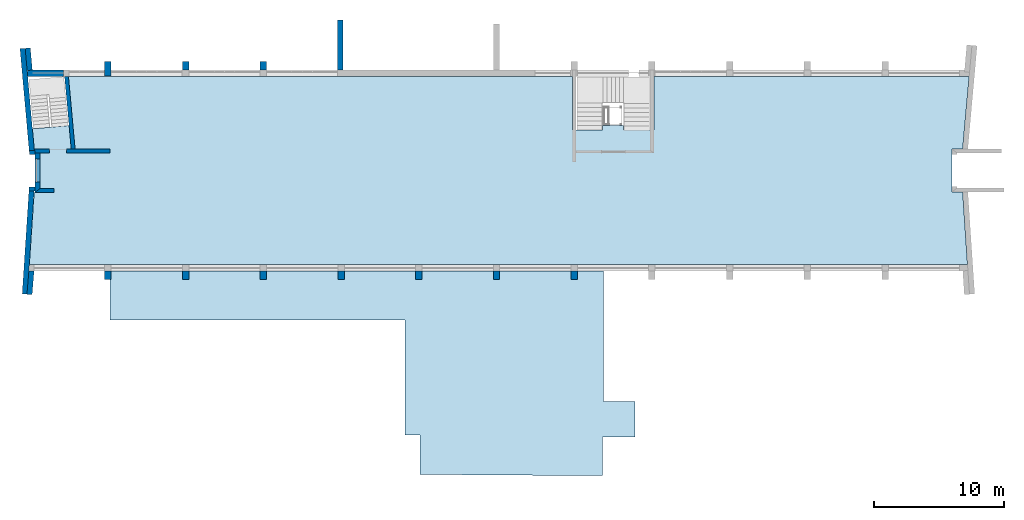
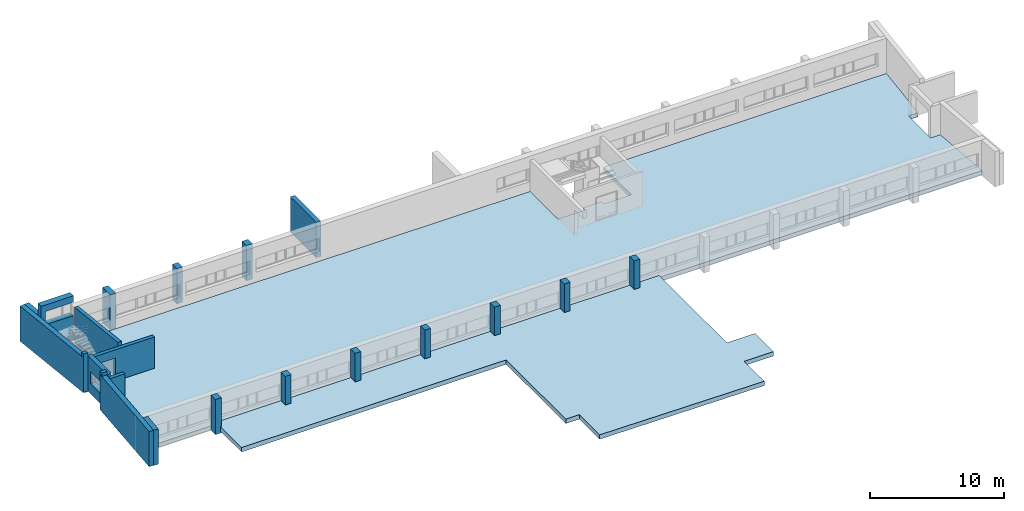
# One storey, part 1 of 10: 22 walls, 2 slabs, 4 openings.
"""IFC2X3 building model written with IfcOpenShell, lengths in millimetres."""

from ifc_helpers import new_model, entity, si_unit, converted_unit, money_unit, direction, frame, origin_with_axes, place, context, subcontext, project, spatial, polyline, outline, extrude, material, layer, layer_set, layer_usage, type_object, element, save


model = new_model("IFC2X3")

# Units and contexts
model_context = context("Model", 3, precision=1e-05, world=origin_with_axes(), true_north=direction((0.0, 1.0)))
body_context = subcontext(model_context, "Body", "Model", "MODEL_VIEW")
ifc_project = project(units=[si_unit("LENGTHUNIT", "METRE", prefix="MILLI"), si_unit("AREAUNIT", "SQUARE_METRE"), si_unit("VOLUMEUNIT", "CUBIC_METRE"), converted_unit("PLANEANGLEUNIT", "DEGREE", entity("IfcPlaneAngleMeasure", 0.0174532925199), si_unit("PLANEANGLEUNIT", "RADIAN"), dimensions=[0, 0, 0, 0, 0, 0, 0]), si_unit("SOLIDANGLEUNIT", "STERADIAN"), money_unit("USD"), converted_unit("TIMEUNIT", "Year", entity("IfcTimeMeasure", 31556926.0), si_unit("TIMEUNIT", "SECOND"), dimensions=[0, 0, 0, 0, 0, 0, 0]), si_unit("MASSUNIT", "GRAM"), si_unit("THERMODYNAMICTEMPERATUREUNIT", "DEGREE_CELSIUS"), si_unit("LUMINOUSINTENSITYUNIT", "LUMEN")], contexts=[model_context])

# Site, building, storey
site_placement = place(None, origin_with_axes())
site = spatial("IfcSite", under=ifc_project, at=site_placement, Name="Site", CompositionType="ELEMENT")
building_placement = place(site_placement, origin_with_axes())
building = spatial("IfcBuilding", under=site, at=building_placement, Name="Building", CompositionType="ELEMENT")
storey_placement = place(building_placement, origin_with_axes())
storey = spatial("IfcBuildingStorey", under=building, at=storey_placement, Name="2KORRUS", CompositionType="ELEMENT", Elevation=0.0)

# Slabs
ifc_material_1 = material(Name="Plaat")
ifc_layer_1 = layer(ifc_material_1, 10.0, ventilated="UNKNOWN")
ifc_material_2 = material(Name="Betoonvalu")
ifc_layer_2 = layer(ifc_material_2, 15.0, ventilated="UNKNOWN")
ifc_material_3 = material(Name="Vahtpolüstüreen")
ifc_layer_3 = layer(ifc_material_3, 30.0, ventilated="UNKNOWN")
ifc_material_4 = material(Name="Reinforced Concrete - Structural (1)")
ifc_layer_4 = layer(ifc_material_4, 265.0, ventilated="UNKNOWN")
ifc_material_5 = material(Name="Kile")
ifc_layer_5 = layer(ifc_material_5, 45.0, ventilated="UNKNOWN")
ifc_layer_set_1 = layer_set([ifc_layer_1, ifc_layer_2, ifc_layer_3, ifc_layer_4, ifc_layer_5], Name="Olemasolev põrand, vahelagi, uus viimistlus")
ifc_layer_usage_1 = layer_usage(ifc_layer_set_1, "AXIS3", "NEGATIVE", 365.0)
slab_type_1 = type_object("IfcSlabType", Name="Olemasolev põrand, vahelagi, uus viimistlus 365", PredefinedType="NOTDEFINED")
slab_1_placement = place(storey_placement, frame((-54198.1100595, -19639.2398994, 0.0), z_axis=(0.0, 0.0, 1.0), x_axis=(1.0, 0.0, 0.0)))
element("IfcSlab", 1, at=slab_1_placement, inside=storey, type_object=slab_type_1, material=ifc_layer_usage_1, Name="P3", ObjectType="P3", PredefinedType="FLOOR", context=body_context, shape_type="SweptSolid", body=[
    extrude(outline(polyline([(0.0, 0.0), (72415.6267124, 0.0), (72043.2266842, 5600.0), (71213.2900292, 5600.0), (71213.2900292, 8899.63579061), (72039.7151706, 8899.63579061), (72543.4907953, 14499.6357906), (48207.8133562, 14499.6357906), (48207.8133562, 10358.2776046), (45857.8133562, 10358.2776046), (45857.8133562, 10708.5963725), (44257.8133562, 10708.5963725), (44257.8133562, 10358.2776046), (41907.8133562, 10358.2776046), (41907.8133562, 14499.6357906), (2717.49602874, 14499.6357906), (3063.03852867, 10720.2049798), (310.625144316, 10473.0044796), (234.920381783, 10466.9019649), (375.911541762, 8899.63579061), (805.883228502, 8899.63579061), (805.883228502, 5551.90233206), (369.201533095, 5551.90233206), (0.0, 0.0)])), frame((0.0, 0.0, -365.0), z_axis=(0.0, 0.0, 1.0), x_axis=(1.0, 0.0, 0.0)), (0.0, 0.0, 1.0), 365.0),
])
ifc_material_6 = material(Name="Betoon")
ifc_layer_6 = layer(ifc_material_6, 400.0, ventilated="UNKNOWN")
ifc_layer_set_2 = layer_set([ifc_layer_6], Name="Betoon 400")
ifc_layer_usage_2 = layer_usage(ifc_layer_set_2, "AXIS3", "NEGATIVE", 400.0)
slab_type_2 = type_object("IfcSlabType", Name="Betoon 400", PredefinedType="FLOOR")
slab_2_placement = place(storey_placement, frame((-47970.2967033, -20139.2398994, 600.0), z_axis=(0.0, 0.0, 1.0), x_axis=(1.0, 0.0, 0.0)))
element("IfcSlab", 2, at=slab_2_placement, inside=storey, type_object=slab_type_2, material=ifc_layer_usage_2, Name="SLA - 007", PredefinedType="FLOOR", context=body_context, shape_type="SweptSolid", body=[
    extrude(outline(polyline([(0.0, 0.0), (0.0, -3806.36420942), (22759.9427442, -3806.36420942), (22759.9427442, -12686.8283554), (23929.9408823, -12686.8283554), (23929.9408823, -15712.9465872), (38021.4035982, -15812.9465872), (38021.4035982, -12823.0737987), (40527.6477031, -12823.0737987), (40527.6477031, -10095.9838529), (38108.8955906, -10095.9838529), (38108.8955906, 0.0), (0.0, 0.0)])), frame((0.0, 0.0, -400.0), z_axis=(0.0, 0.0, 1.0), x_axis=(1.0, 0.0, 0.0)), (0.0, 0.0, 1.0), 400.0),
])

# Walls
ifc_material_7 = material(Name="Olemasolevad seinad tellis, uus viimistlus")
ifc_layer_7 = layer(ifc_material_7, 400.0, ventilated="UNKNOWN")
ifc_layer_set_3 = layer_set([ifc_layer_7], Name="Olemasolevad seinad tellis, uus viimistlus 400")
ifc_layer_usage_3 = layer_usage(ifc_layer_set_3, "AXIS2", "POSITIVE", -400.0)
wall_type_1 = type_object("IfcWallType", Name="Olemasolevad seinad tellis, uus viimistlus 400", PredefinedType="NOTDEFINED")
wall_1_placement = place(storey_placement, frame((-54187.7234453, -11140.7868098, 0.0), z_axis=(0.0, 0.0, 1.0), x_axis=(-0.0895981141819, 0.995978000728, 0.0)))
element("IfcWallStandardCase", 3, at=wall_1_placement, inside=storey, type_object=wall_type_1, material=ifc_layer_usage_3, Name="vs1", ObjectType="vs1", context=body_context, shape_type="SweptSolid", body=[
    extrude(outline(polyline([(265.227499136, -400.0), (8186.63407898, -400.0), (8186.63407898, 0.0), (0.0, 0.0), (265.227499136, -400.0)])), origin_with_axes(), (0.0, 0.0, 1.0), 3200.0),
])
ifc_layer_usage_4 = layer_usage(ifc_layer_set_3, "AXIS2", "POSITIVE", 0.0)
wall_2_placement = place(storey_placement, frame((-54209.8419994, -13661.5124894, 0.0), z_axis=(0.0, 0.0, 1.0), x_axis=(-0.0653463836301, -0.997862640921, 0.0)))
element("IfcWallStandardCase", 4, at=wall_2_placement, inside=storey, type_object=wall_type_1, material=ifc_layer_usage_4, Name="vs1", ObjectType="vs1", context=body_context, shape_type="SweptSolid", body=[
    extrude(outline(polyline([(0.0, 0.0), (8272.34369244, 0.0), (8272.34369244, 400.0), (274.448040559, 400.0), (0.0, 0.0)])), origin_with_axes(), (0.0, 0.0, 1.0), 3200.0),
])

# Wall, opening
ifc_layer_usage_5 = layer_usage(ifc_layer_set_3, "AXIS2", "POSITIVE", -400.0)
wall_3_placement = place(storey_placement, frame((-53377.938157, -11039.6041088, 0.0), z_axis=(0.0, 0.0, 1.0), x_axis=(0.0, -1.0, 0.0)))
wall_3 = element("IfcWallStandardCase", 5, at=wall_3_placement, inside=storey, type_object=wall_type_1, material=ifc_layer_usage_5, Name="vs1", ObjectType="vs1", context=body_context, shape_type="SweptSolid", body=[
    extrude(outline(polyline([(0.0, -400.0), (3047.7334586, -400.0), (2747.7334586, 0.0), (0.0, 0.0), (0.0, -400.0)])), origin_with_axes(), (0.0, 0.0, 1.0), 3200.0),
])
opening_1_placement = place(wall_3_placement, frame((1349.63579061, 0.0, 900.0), z_axis=(0.0, 0.0, 1.0), x_axis=(1.0, 0.0, 0.0)))
element("IfcOpeningElement", 6, at=opening_1_placement, cuts=wall_3, Name="A5", context=body_context, shape_type="SweptSolid", body=[
    extrude(outline(polyline([(-900.0, 0.0), (-900.0, -1100.0), (900.0, -1100.0), (900.0, 0.0), (-900.0, 0.0)])), frame((0.0, -300.0, 0.0), z_axis=(0.0, 1.0, 0.0), x_axis=(1.0, 0.0, 0.0)), (0.0, 0.0, 1.0), 700.0),
    extrude(outline(polyline([(-900.0, 1100.0), (-900.0, 0.0), (900.0, 0.0), (900.0, 1100.0), (-900.0, 1100.0)])), frame((0.0, -300.0, 0.0), z_axis=(0.0, -1.0, 0.0), x_axis=(1.0, 0.0, 0.0)), (0.0, 0.0, 1.0), 500.0),
])

# Walls
ifc_layer_usage_6 = layer_usage(ifc_layer_set_3, "AXIS2", "POSITIVE", -400.0)
wall_4_placement = place(storey_placement, frame((-53800.0596657, -19739.2398994, 0.0), z_axis=(0.0, 0.0, 1.0), x_axis=(-0.0832329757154, -0.996530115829, 0.0)))
element("IfcWallStandardCase", 7, at=wall_4_placement, inside=storey, type_object=wall_type_1, material=ifc_layer_usage_6, Name="vs1", ObjectType="vs1", context=body_context, shape_type="SweptSolid", body=[
    extrude(outline(polyline([(434.801902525, -400.0), (2242.91220675, -400.0), (2242.91220675, 0.0), (401.392786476, 0.0), (434.801902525, -400.0)])), origin_with_axes(), (0.0, 0.0, 1.0), 3200.0),
])
ifc_layer_usage_7 = layer_usage(ifc_layer_set_3, "AXIS2", "POSITIVE", 0.0)
wall_5_placement = place(storey_placement, frame((-53969.5962911, -4636.74196029, 250.0), z_axis=(0.0, 0.0, 1.0), x_axis=(-0.0895981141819, 0.995978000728, 0.0)))
element("IfcWallStandardCase", 8, at=wall_5_placement, inside=storey, type_object=wall_type_1, material=ifc_layer_usage_7, Name="vs1", ObjectType="vs1", context=body_context, shape_type="SweptSolid", body=[
    extrude(outline(polyline([(0.0, 0.0), (1718.98651563, 0.0), (1718.98651563, 400.0), (0.0, 400.0), (0.0, 0.0)])), origin_with_axes(), (0.0, 0.0, 1.0), 2950.0),
])
ifc_layer_usage_8 = layer_usage(ifc_layer_set_3, "AXIS2", "POSITIVE", 0.0)
wall_6_placement = place(storey_placement, frame((-30001.8622273, -5039.6041088, 0.0), z_axis=(0.0, 0.0, 1.0), x_axis=(0.0, 1.0, 0.0)))
element("IfcWallStandardCase", 9, at=wall_6_placement, inside=storey, type_object=wall_type_1, material=ifc_layer_usage_8, Name="VS1", ObjectType="VS1", context=body_context, shape_type="SweptSolid", body=[
    extrude(outline(polyline([(400.0, 0.0), (4266.68090784, 0.0), (4266.68090784, 400.0), (400.0, 400.0), (400.0, 0.0)])), origin_with_axes(), (0.0, 0.0, 1.0), 3200.0),
])
ifc_layer_8 = layer(ifc_material_7, 300.0, ventilated="UNKNOWN")
ifc_layer_set_4 = layer_set([ifc_layer_8], Name="Olemasolevad seinad tellis, uus viimistlus 300")
ifc_layer_usage_9 = layer_usage(ifc_layer_set_4, "AXIS2", "POSITIVE", -300.0)
wall_type_2 = type_object("IfcWallType", Name="Olemasolevad seinad tellis, uus viimistlus 300", PredefinedType="NOTDEFINED")
wall_7_placement = place(storey_placement, frame((-53377.938157, -13787.3375674, 0.0), z_axis=(0.0, 0.0, 1.0), x_axis=(1.0, 0.0, 0.0)))
element("IfcWallStandardCase", 10, at=wall_7_placement, inside=storey, type_object=wall_type_2, material=ifc_layer_usage_9, Name="ks1", ObjectType="ks1", context=body_context, shape_type="SweptSolid", body=[
    extrude(outline(polyline([(-400.0, -300.0), (1066.09429757, -300.0), (1066.09429757, 0.0), (0.0, 0.0), (-400.0, -300.0)])), origin_with_axes(), (0.0, 0.0, 1.0), 2850.0),
])

# Wall, openings
ifc_layer_usage_10 = layer_usage(ifc_layer_set_4, "AXIS2", "POSITIVE", 0.0)
wall_8_placement = place(storey_placement, frame((-54196.8258343, -11039.6041088, 0.0), z_axis=(0.0, 0.0, 1.0), x_axis=(1.0, 0.0, 0.0)))
wall_8 = element("IfcWallStandardCase", 11, at=wall_8_placement, inside=storey, type_object=wall_type_2, material=ifc_layer_usage_10, Name="ks1", ObjectType="ks1", context=body_context, shape_type="SweptSolid", body=[
    extrude(outline(polyline([(401.61529643, 0.0), (6206.52913098, 0.0), (6206.52913098, 300.0), (374.62731654, 300.0), (401.61529643, 0.0)])), origin_with_axes(), (0.0, 0.0, 1.0), 2850.0),
])
opening_2_placement = place(wall_8_placement, frame((2205.09576789, 0.0, 0.0), z_axis=(0.0, 0.0, 1.0), x_axis=(1.0, 0.0, 0.0)))
element("IfcOpeningElement", 12, at=opening_2_placement, cuts=wall_8, Name="DOO - 001", context=body_context, shape_type="SweptSolid", body=[
    extrude(outline(polyline([(-650.0, -2100.0), (650.0, -2100.0), (650.0, 0.0), (-650.0, 0.0), (-650.0, -2100.0)])), frame((0.0, -300.0, 0.0), z_axis=(0.0, 1.0, 0.0), x_axis=(1.0, 0.0, 0.0)), (0.0, 0.0, 1.0), 900.0),
])
opening_3_placement = place(wall_8_placement, frame((2205.09576789, 0.0, 0.0), z_axis=(0.0, 0.0, 1.0), x_axis=(1.0, 0.0, 0.0)))
element("IfcOpeningElement", 13, at=opening_3_placement, cuts=wall_8, Name="SU4-2", context=body_context, shape_type="SweptSolid", body=[
    extrude(outline(polyline([(-650.0, -2100.0), (650.0, -2100.0), (650.0, 0.0), (-650.0, 0.0), (-650.0, -2100.0)])), frame((0.0, -300.0, 0.0), z_axis=(0.0, 1.0, 0.0), x_axis=(1.0, 0.0, 0.0)), (0.0, 0.0, 1.0), 900.0),
])

# Walls
ifc_layer_usage_11 = layer_usage(ifc_layer_set_4, "AXIS2", "POSITIVE", -300.0)
wall_9_placement = place(storey_placement, frame((-51188.5055148, -5039.6041088, 0.0), z_axis=(0.0, 0.0, 1.0), x_axis=(0.0910473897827, -0.995846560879, 0.0)))
element("IfcWallStandardCase", 14, at=wall_9_placement, inside=storey, type_object=wall_type_2, material=ifc_layer_usage_11, Name="ks1", ObjectType="ks1", context=body_context, shape_type="SweptSolid", body=[
    extrude(outline(polyline([(72.9889381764, -300.0), (5696.34520609, -300.0), (5723.77334413, 0.0), (100.417076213, 0.0), (72.9889381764, -300.0)])), origin_with_axes(), (0.0, 0.0, 1.0), 3200.0),
])
ifc_layer_usage_12 = layer_usage(ifc_layer_set_4, "AXIS2", "POSITIVE", -300.0)
wall_10_placement = place(storey_placement, frame((-54209.8419994, -13661.5124894, 0.0), z_axis=(0.0, 0.0, 1.0), x_axis=(1.0, 0.0, 0.0)))
element("IfcWallStandardCase", 15, at=wall_10_placement, inside=storey, type_object=wall_type_2, material=ifc_layer_usage_12, Name="VS1", ObjectType="VS1", context=body_context, shape_type="SweptSolid", body=[
    extrude(outline(polyline([(0.0, -300.0), (431.9038424, -300.0), (431.9038424, 0.0), (0.0, 0.0), (0.0, -300.0)])), origin_with_axes(), (0.0, 0.0, 1.0), 3500.0),
])
ifc_layer_usage_13 = layer_usage(ifc_layer_set_4, "AXIS2", "POSITIVE", 0.0)
wall_11_placement = place(storey_placement, frame((-54187.7234453, -11140.7868098, 0.0), z_axis=(0.0, 0.0, 1.0), x_axis=(1.0, 0.0, 0.0)))
element("IfcWallStandardCase", 16, at=wall_11_placement, inside=storey, type_object=wall_type_2, material=ifc_layer_usage_13, Name="VS1", ObjectType="VS1", context=body_context, shape_type="SweptSolid", body=[
    extrude(outline(polyline([(0.0, 0.0), (409.7852883, 0.0), (409.7852883, 300.0), (0.0, 300.0), (0.0, 0.0)])), origin_with_axes(), (0.0, 0.0, 1.0), 3500.0),
])
ifc_layer_9 = layer(ifc_material_7, 500.0, ventilated="UNKNOWN")
ifc_layer_set_5 = layer_set([ifc_layer_9], Name="Olemasolevad seinad tellis, uus viimistlus 500")
ifc_layer_usage_14 = layer_usage(ifc_layer_set_5, "AXIS2", "POSITIVE", -100.0)
wall_type_3 = type_object("IfcWallType", Name="Olemasolevad seinad tellis, uus viimistlus 500", PredefinedType="NOTDEFINED")
wall_12_placement = place(storey_placement, frame((-47990.2967033, -20796.6419407, 0.0), z_axis=(0.0, 0.0, 1.0), x_axis=(0.0, 1.0, 0.0)))
element("IfcWallStandardCase", 17, at=wall_12_placement, inside=storey, type_object=wall_type_3, material=ifc_layer_usage_14, Name="vs1", ObjectType="vs1", context=body_context, shape_type="SweptSolid", body=[
    extrude(outline(polyline([(0.0, -100.0), (657.4020413, -100.0), (657.4020413, 400.0), (0.0, 400.0), (0.0, -100.0)])), origin_with_axes(), (0.0, 0.0, 1.0), 3200.0),
])
ifc_layer_usage_15 = layer_usage(ifc_layer_set_5, "AXIS2", "POSITIVE", -100.0)
wall_13_placement = place(storey_placement, frame((-41990.2967033, -20796.6419407, 0.0), z_axis=(0.0, 0.0, 1.0), x_axis=(0.0, 1.0, 0.0)))
element("IfcWallStandardCase", 18, at=wall_13_placement, inside=storey, type_object=wall_type_3, material=ifc_layer_usage_15, Name="vs1", ObjectType="vs1", context=body_context, shape_type="SweptSolid", body=[
    extrude(outline(polyline([(0.0, -100.0), (657.4020413, -100.0), (657.4020413, 400.0), (0.0, 400.0), (0.0, -100.0)])), origin_with_axes(), (0.0, 0.0, 1.0), 3200.0),
])
ifc_layer_usage_16 = layer_usage(ifc_layer_set_5, "AXIS2", "POSITIVE", -100.0)
wall_14_placement = place(storey_placement, frame((-35990.2967033, -20796.6419407, 0.0), z_axis=(0.0, 0.0, 1.0), x_axis=(0.0, 1.0, 0.0)))
element("IfcWallStandardCase", 19, at=wall_14_placement, inside=storey, type_object=wall_type_3, material=ifc_layer_usage_16, Name="VS1", ObjectType="VS1", context=body_context, shape_type="SweptSolid", body=[
    extrude(outline(polyline([(0.0, -100.0), (657.4020413, -100.0), (657.4020413, 400.0), (0.0, 400.0), (0.0, -100.0)])), origin_with_axes(), (0.0, 0.0, 1.0), 3200.0),
])
ifc_layer_usage_17 = layer_usage(ifc_layer_set_5, "AXIS2", "POSITIVE", -100.0)
wall_15_placement = place(storey_placement, frame((-29990.2967033, -20796.6419407, 0.0), z_axis=(0.0, 0.0, 1.0), x_axis=(0.0, 1.0, 0.0)))
element("IfcWallStandardCase", 20, at=wall_15_placement, inside=storey, type_object=wall_type_3, material=ifc_layer_usage_17, Name="VS1", ObjectType="VS1", context=body_context, shape_type="SweptSolid", body=[
    extrude(outline(polyline([(0.0, -100.0), (657.4020413, -100.0), (657.4020413, 400.0), (0.0, 400.0), (0.0, -100.0)])), origin_with_axes(), (0.0, 0.0, 1.0), 3200.0),
])

# Wall, opening
ifc_layer_usage_18 = layer_usage(ifc_layer_set_5, "AXIS2", "POSITIVE", -100.0)
wall_16_placement = place(storey_placement, frame((-54343.0262419, -5039.6041088, 260.0), z_axis=(0.0, 0.0, 1.0), x_axis=(1.0, 0.0, 0.0)))
wall_16 = element("IfcWallStandardCase", 21, at=wall_16_placement, inside=storey, type_object=wall_type_3, material=ifc_layer_usage_18, Name="VS1", ObjectType="VS1", context=body_context, shape_type="SweptSolid", body=[
    extrude(outline(polyline([(0.0, -100.0), (2773.68742949, -100.0), (2773.68742949, 400.0), (0.0, 400.0), (0.0, -100.0)])), origin_with_axes(), (0.0, 0.0, 1.0), 4000.0),
])
opening_4_placement = place(wall_16_placement, frame((1573.68742949, 0.0, 2200.0), z_axis=(0.0, 0.0, 1.0), x_axis=(1.0, 0.0, 0.0)))
element("IfcOpeningElement", 22, at=opening_4_placement, cuts=wall_16, Name="A2", context=body_context, shape_type="SweptSolid", body=[
    extrude(outline(polyline([(-1200.0, 1200.0), (-1200.0, 0.0), (1200.0, 0.0), (1200.0, 1200.0), (-1200.0, 1200.0)])), frame((0.0, 200.0, 0.0), z_axis=(0.0, -1.0, 0.0), x_axis=(1.0, 0.0, 0.0)), (0.0, 0.0, 1.0), 800.0),
    extrude(outline(polyline([(-1200.0, 0.0), (-1200.0, -1200.0), (1200.0, -1200.0), (1200.0, 0.0), (-1200.0, 0.0)])), frame((0.0, 200.0, 0.0), z_axis=(0.0, 1.0, 0.0), x_axis=(1.0, 0.0, 0.0)), (0.0, 0.0, 1.0), 700.0),
])

# Walls
ifc_layer_usage_19 = layer_usage(ifc_layer_set_5, "AXIS2", "POSITIVE", -100.0)
wall_17_placement = place(storey_placement, frame((-23990.2967033, -20796.6419407, 0.0), z_axis=(0.0, 0.0, 1.0), x_axis=(0.0, 1.0, 0.0)))
element("IfcWallStandardCase", 23, at=wall_17_placement, inside=storey, type_object=wall_type_3, material=ifc_layer_usage_19, Name="VS1", ObjectType="VS1", context=body_context, shape_type="SweptSolid", body=[
    extrude(outline(polyline([(0.0, -100.0), (657.4020413, -100.0), (657.4020413, 400.0), (0.0, 400.0), (0.0, -100.0)])), origin_with_axes(), (0.0, 0.0, 1.0), 3200.0),
])
ifc_layer_usage_20 = layer_usage(ifc_layer_set_5, "AXIS2", "POSITIVE", -100.0)
wall_18_placement = place(storey_placement, frame((-47990.2967033, -5111.84450307, 0.0), z_axis=(0.0, 0.0, 1.0), x_axis=(0.0, 1.0, 0.0)))
element("IfcWallStandardCase", 24, at=wall_18_placement, inside=storey, type_object=wall_type_3, material=ifc_layer_usage_20, Name="vs1", ObjectType="vs1", context=body_context, shape_type="SweptSolid", body=[
    extrude(outline(polyline([(0.0, -100.0), (1129.64243552, -100.0), (1129.64243552, 400.0), (0.0, 400.0), (0.0, -100.0)])), origin_with_axes(), (0.0, 0.0, 1.0), 3200.0),
])
ifc_layer_usage_21 = layer_usage(ifc_layer_set_5, "AXIS2", "POSITIVE", -100.0)
wall_19_placement = place(storey_placement, frame((-11990.2967033, -20796.6419407, 0.0), z_axis=(0.0, 0.0, 1.0), x_axis=(0.0, 1.0, 0.0)))
element("IfcWallStandardCase", 25, at=wall_19_placement, inside=storey, type_object=wall_type_3, material=ifc_layer_usage_21, Name="vs1", ObjectType="vs1", context=body_context, shape_type="SweptSolid", body=[
    extrude(outline(polyline([(0.0, -100.0), (657.4020413, -100.0), (657.4020413, 400.0), (0.0, 400.0), (0.0, -100.0)])), origin_with_axes(), (0.0, 0.0, 1.0), 3200.0),
])
ifc_layer_usage_22 = layer_usage(ifc_layer_set_5, "AXIS2", "POSITIVE", -100.0)
wall_20_placement = place(storey_placement, frame((-17990.2967033, -20796.6419407, 0.0), z_axis=(0.0, 0.0, 1.0), x_axis=(0.0, 1.0, 0.0)))
element("IfcWallStandardCase", 26, at=wall_20_placement, inside=storey, type_object=wall_type_3, material=ifc_layer_usage_22, Name="vs1", ObjectType="vs1", context=body_context, shape_type="SweptSolid", body=[
    extrude(outline(polyline([(0.0, -100.0), (657.4020413, -100.0), (657.4020413, 400.0), (0.0, 400.0), (0.0, -100.0)])), origin_with_axes(), (0.0, 0.0, 1.0), 3200.0),
])
ifc_layer_usage_23 = layer_usage(ifc_layer_set_5, "AXIS2", "POSITIVE", -100.0)
wall_21_placement = place(storey_placement, frame((-41990.2967033, -5039.6041088, 0.0), z_axis=(0.0, 0.0, 1.0), x_axis=(0.0, 1.0, 0.0)))
element("IfcWallStandardCase", 27, at=wall_21_placement, inside=storey, type_object=wall_type_3, material=ifc_layer_usage_23, Name="vs1", ObjectType="vs1", context=body_context, shape_type="SweptSolid", body=[
    extrude(outline(polyline([(400.0, -100.0), (1057.40204125, -100.0), (1057.40204125, 400.0), (400.0, 400.0), (400.0, -100.0)])), origin_with_axes(), (0.0, 0.0, 1.0), 3200.0),
])
ifc_layer_usage_24 = layer_usage(ifc_layer_set_5, "AXIS2", "POSITIVE", -100.0)
wall_22_placement = place(storey_placement, frame((-35990.2967033, -5039.6041088, 0.0), z_axis=(0.0, 0.0, 1.0), x_axis=(0.0, 1.0, 0.0)))
element("IfcWallStandardCase", 28, at=wall_22_placement, inside=storey, type_object=wall_type_3, material=ifc_layer_usage_24, Name="VS1", ObjectType="VS1", context=body_context, shape_type="SweptSolid", body=[
    extrude(outline(polyline([(400.0, -100.0), (1057.40204125, -100.0), (1057.40204125, 400.0), (400.0, 400.0), (400.0, -100.0)])), origin_with_axes(), (0.0, 0.0, 1.0), 3200.0),
])

save(model, "model.ifc")
